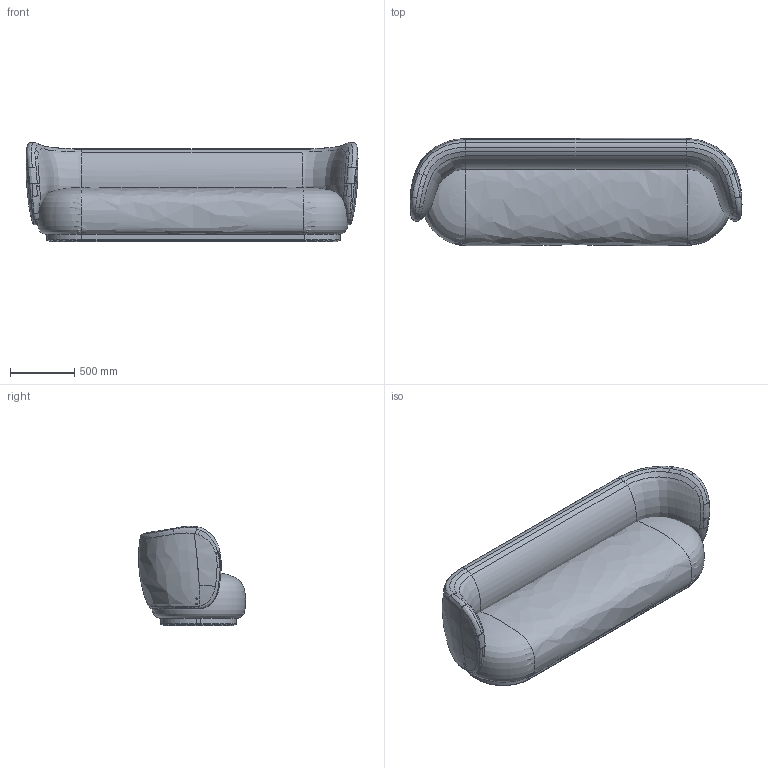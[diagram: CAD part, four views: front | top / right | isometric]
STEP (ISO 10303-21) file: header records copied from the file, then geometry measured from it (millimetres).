
FILE_DESCRIPTION(/* description */ (''),/* implementation_level */ '2;1');
FILE_NAME(/* name */ 'RBRWXP~F',/* time_stamp */ '2019-03-19T17:01:10+01:00',/* author */ (''),/* organization */ (''),/* preprocessor_version */ 'ST-DEVELOPER v15',/* originating_system */ '',/* authorisation */ '');
FILE_SCHEMA (('AUTOMOTIVE_DESIGN'));
Products named in the file (1): Document
Bounding box: 2576.23 x 830.41 x 773.03 mm (x, y, z)
Volume: 186044978.9 mm3; surface area: 13269882 mm2
Topology: 4 solids, 15 shells, 685 faces, 2377 edges, 1612 vertices
Faces by surface type: bspline 685
Entity records: 315646 total; most frequent: CARTESIAN_POINT 287796, B_SPLINE_CURVE_WITH_KNOTS 6107, ORIENTED_EDGE 4302, PCURVE 4302, DEFINITIONAL_REPRESENTATION 4302, SURFACE_CURVE 2353, EDGE_CURVE 2353, VERTEX_POINT 1600
